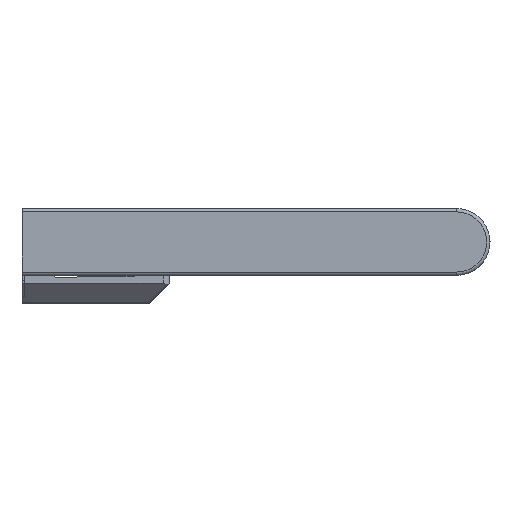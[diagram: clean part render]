
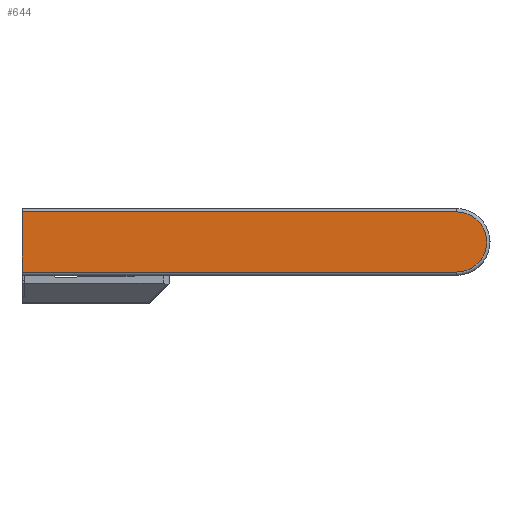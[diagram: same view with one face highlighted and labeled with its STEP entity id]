
A CAD part, left-side view. The second image highlights one B-rep face of the part: STEP entity #644.
In plain terms, the highlighted planar face has unit normal (-1, 0, 0).
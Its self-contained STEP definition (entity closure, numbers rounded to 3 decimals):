
#270 = FACE_OUTER_BOUND ( 'NONE', #1469, .T. ) ;
#358 = ORIENTED_EDGE ( 'NONE', *, *, #2024, .T. ) ;
#359 = ORIENTED_EDGE ( 'NONE', *, *, #2030, .T. ) ;
#360 = ORIENTED_EDGE ( 'NONE', *, *, #2031, .T. ) ;
#361 = ORIENTED_EDGE ( 'NONE', *, *, #2029, .T. ) ;
#518 = AXIS2_PLACEMENT_3D ( 'NONE', #1278, #1277, #1276 ) ;
#644 = ADVANCED_FACE ( 'NONE', ( #270 ), #1279, .F. ) ;
#1276 = DIRECTION ( 'NONE',  ( 0., 0., -1. ) ) ;
#1277 = DIRECTION ( 'NONE',  ( 1., 0., 0. ) ) ;
#1278 = CARTESIAN_POINT ( 'NONE',  ( -225., 70., 10. ) ) ;
#1279 = PLANE ( 'NONE',  #518 ) ;
#1469 = EDGE_LOOP ( 'NONE', ( #359, #361, #358, #360 ) ) ;
#1891 = VERTEX_POINT ( 'NONE', #2844 ) ;
#1892 = VERTEX_POINT ( 'NONE', #2843 ) ;
#1894 = VERTEX_POINT ( 'NONE', #2835 ) ;
#1895 = VERTEX_POINT ( 'NONE', #2832 ) ;
#2024 = EDGE_CURVE ( 'NONE', #1892, #1891, #2990, .T. ) ;
#2029 = EDGE_CURVE ( 'NONE', #1894, #1892, #4171, .T. ) ;
#2030 = EDGE_CURVE ( 'NONE', #1895, #1894, #4172, .T. ) ;
#2031 = EDGE_CURVE ( 'NONE', #1891, #1895, #4173, .T. ) ;
#2719 = DIRECTION ( 'NONE',  ( 0., 1., 0. ) ) ;
#2720 = CARTESIAN_POINT ( 'NONE',  ( -225., 70., 9.5 ) ) ;
#2721 = DIRECTION ( 'NONE',  ( 0., 0., -1. ) ) ;
#2722 = CARTESIAN_POINT ( 'NONE',  ( -225., 70., 10. ) ) ;
#2723 = DIRECTION ( 'NONE',  ( 0., -1., 0. ) ) ;
#2724 = CARTESIAN_POINT ( 'NONE',  ( -225., 70., 0.5 ) ) ;
#2744 = DIRECTION ( 'NONE',  ( 0., 0., -1. ) ) ;
#2745 = DIRECTION ( 'NONE',  ( -1., 0., 0. ) ) ;
#2746 = CARTESIAN_POINT ( 'NONE',  ( -225., 5., 5. ) ) ;
#2832 = CARTESIAN_POINT ( 'NONE',  ( -225., 70., 9.5 ) ) ;
#2835 = CARTESIAN_POINT ( 'NONE',  ( -225., 70., 0.5 ) ) ;
#2843 = CARTESIAN_POINT ( 'NONE',  ( -225., 5., 0.5 ) ) ;
#2844 = CARTESIAN_POINT ( 'NONE',  ( -225., 5., 9.5 ) ) ;
#2990 = CIRCLE ( 'NONE', #2998, 4.5 ) ;
#2998 = AXIS2_PLACEMENT_3D ( 'NONE', #2746, #2745, #2744 ) ;
#3007 = VECTOR ( 'NONE', #2723, 1000. ) ;
#3008 = VECTOR ( 'NONE', #2721, 1000. ) ;
#3010 = VECTOR ( 'NONE', #2719, 1000. ) ;
#4171 = LINE ( 'NONE', #2724, #3007 ) ;
#4172 = LINE ( 'NONE', #2722, #3008 ) ;
#4173 = LINE ( 'NONE', #2720, #3010 ) ;
